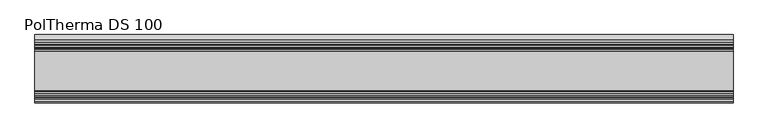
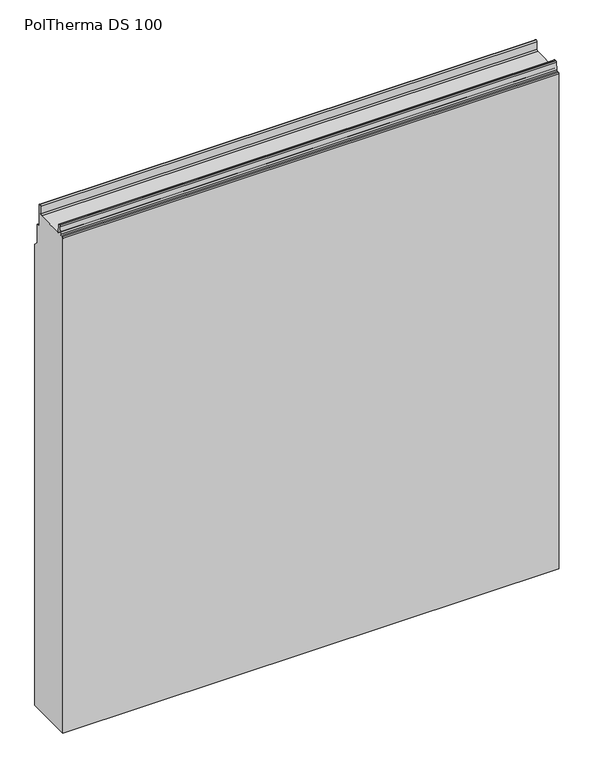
"""IFC4 building model written with IfcOpenShell, lengths in millimetres: plate geometry, Europanels_Poltherma DS_Hz : PolTherma DS 100."""

from ifc_helpers import new_model, si_unit, frame, origin, place, context, project, spatial, polyline, circle_curve, source, transform, mapped, element, save
from ifc_brep_helpers import plane_surface, cylinder_surface, revolved_surface, advanced_brep


def poltherma_ds_100_d88b4380(model_context):
    return source(origin(), model_context, "Body", "AdvancedBrep", [
        advanced_brep(
        [(512.5, 50.0, 0.0), (512.5, 50.0, 1006.0403652), (512.5, 41.9993224, 1014.5306815), (512.5, 41.9993224, 1053.783709), (512.5, 39.5003388, 1056.2826927), (512.5, 36.4964005, 1056.2826927), (512.5, 33.9927587, 1058.7863345), (512.5, 33.9927587, 1102.0320728), (512.5, 31.7320949, 1104.2927366), (512.5, 29.3625931, 1102.12865), (512.5, 28.6828547, 1085.5928147), (512.5, 26.3196392, 1083.2879082), (512.5, -31.7227962, 1081.7845566), (512.5, -33.7207985, 1083.6951741), (512.5, -34.4459609, 1099.8739391), (512.5, -36.4439626, 1101.784556), (512.5, -39.1932037, 1101.784556), (512.5, -41.1890147, 1099.9139331), (512.5, -42.2429781, 1083.6551788), (512.5, -44.2387891, 1081.784556), (512.5, -48.0, 1081.784556), (512.5, -50.0, 1079.784556), (512.5, -50.0, 0.0), (-512.5, 50.0, 0.0), (-512.5, -50.0, 0.0), (-512.5, -50.0, 1079.784556), (-512.5, -48.0, 1081.784556), (-512.5, -44.2387891, 1081.784556), (-512.5, -42.2429781, 1083.6551788), (-512.5, -41.1890147, 1099.9139331), (-512.5, -39.1932037, 1101.784556), (-512.5, -36.4439626, 1101.784556), (-512.5, -34.4459609, 1099.8739391), (-512.5, -33.7221833, 1083.6951728), (-512.5, -31.7227962, 1081.7845566), (-512.5, 26.3196392, 1083.2879082), (-512.5, 28.6828547, 1085.5928147), (-512.5, 29.3363956, 1102.1234406), (-512.5, 31.7320949, 1104.2927366), (-512.5, 33.9927587, 1102.0320728), (-512.5, 33.9927587, 1058.7863345), (-512.5, 36.4964005, 1056.2826927), (-512.5, 39.5003388, 1056.2826927), (-512.5, 41.9993224, 1053.783709), (-512.5, 41.9993224, 1014.5306815), (-512.5, 50.0, 1006.0403652)],
        [
            (0, 1),
            (1, 2),
            (2, 3),
            (3, 4, circle_curve(frame((512.5, 39.5003388, 1053.783709), z_axis=(1.0, 0.0, 0.0), x_axis=(0.0, 1.0, 0.0)), 2.4989837)),
            (4, 5),
            (5, 6, circle_curve(frame((512.5, 36.4964005, 1058.7863345), z_axis=(-1.0, 0.0, 0.0), x_axis=(0.0, 1.0, 0.0)), 2.5036418)),
            (6, 7),
            (7, 8, circle_curve(frame((512.5, 31.7320949, 1102.0320728), z_axis=(1.0, 0.0, 0.0), x_axis=(0.0, 1.0, 0.0)), 2.2606638)),
            (8, 9, circle_curve(frame((512.5, 31.6169847, 1102.0395223), z_axis=(1.0, 0.0, 0.0), x_axis=(0.0, 1.0, 0.0)), 2.2561527)),
            (9, 10),
            (10, 11, circle_curve(frame((512.5, 26.1902185, 1085.784556), z_axis=(-1.0, 0.0, 0.0), x_axis=(0.0, 1.0, 0.0)), 2.5)),
            (11, 12),
            (12, 13, circle_curve(frame((512.5, -31.7227962, 1083.7845572), z_axis=(-1.0, 0.0, 0.0), x_axis=(0.0, 1.0, 0.0)), 2.0000006)),
            (13, 14),
            (14, 15, circle_curve(frame((512.5, -36.4439626, 1099.784556), z_axis=(1.0, 0.0, 0.0), x_axis=(0.0, 1.0, 0.0)), 2.0)),
            (15, 16),
            (16, 17, circle_curve(frame((512.5, -39.1932037, 1099.784556), z_axis=(1.0, 0.0, 0.0), x_axis=(0.0, 1.0, 0.0)), 2.0)),
            (17, 18),
            (18, 19, circle_curve(frame((512.5, -44.2387891, 1083.784556), z_axis=(-1.0, 0.0, 0.0), x_axis=(0.0, 1.0, 0.0)), 2.0)),
            (19, 20),
            (20, 21, circle_curve(frame((512.5, -48.0, 1079.784556), z_axis=(1.0, 0.0, 0.0), x_axis=(0.0, 1.0, 0.0)), 2.0)),
            (21, 22),
            (22, 0),
            (23, 24),
            (24, 25),
            (25, 26, circle_curve(frame((-512.5, -48.0, 1079.784556), z_axis=(-1.0, 0.0, 0.0), x_axis=(0.0, 1.0, 0.0)), 2.0)),
            (26, 27),
            (27, 28, circle_curve(frame((-512.5, -44.2387891, 1083.784556), z_axis=(1.0, 0.0, 0.0), x_axis=(0.0, 1.0, 0.0)), 2.0)),
            (28, 29),
            (29, 30, circle_curve(frame((-512.5, -39.1932037, 1099.784556), z_axis=(-1.0, 0.0, 0.0), x_axis=(0.0, 1.0, 0.0)), 2.0)),
            (30, 31),
            (31, 32, circle_curve(frame((-512.5, -36.4439626, 1099.784556), z_axis=(-1.0, 0.0, 0.0), x_axis=(0.0, 1.0, 0.0)), 2.0)),
            (32, 33),
            (33, 34, circle_curve(frame((-512.5, -31.7227962, 1083.7845572), z_axis=(1.0, 0.0, 0.0), x_axis=(0.0, 1.0, 0.0)), 2.0000006)),
            (34, 35),
            (35, 36, circle_curve(frame((-512.5, 26.1902185, 1085.784556), z_axis=(1.0, 0.0, 0.0), x_axis=(0.0, 1.0, 0.0)), 2.5)),
            (36, 37),
            (37, 38, circle_curve(frame((-512.5, 31.6169847, 1102.0395223), z_axis=(-1.0, 0.0, 0.0), x_axis=(0.0, 1.0, 0.0)), 2.2561527)),
            (38, 39, circle_curve(frame((-512.5, 31.7320949, 1102.0320728), z_axis=(-1.0, 0.0, 0.0), x_axis=(0.0, 1.0, 0.0)), 2.2606638)),
            (39, 40),
            (40, 41, circle_curve(frame((-512.5, 36.4964005, 1058.7863345), z_axis=(1.0, 0.0, 0.0), x_axis=(0.0, 1.0, 0.0)), 2.5036418)),
            (41, 42),
            (42, 43, circle_curve(frame((-512.5, 39.5003388, 1053.783709), z_axis=(-1.0, 0.0, 0.0), x_axis=(0.0, 1.0, 0.0)), 2.4989837)),
            (43, 44),
            (44, 45),
            (45, 23),
            (0, 23),
            (45, 1),
            (44, 2),
            (43, 3),
            (42, 4),
            (41, 5),
            (40, 6),
            (39, 7),
            (38, 8),
            (37, 9),
            (36, 10),
            (35, 11),
            (34, 12),
            (33, 13),
            (32, 14),
            (31, 15),
            (30, 16),
            (29, 17),
            (28, 18),
            (27, 19),
            (26, 20),
            (25, 21),
            (24, 22),
        ],
        [
            plane_surface(frame((512.5, 50.0, 1006.0403652), z_axis=(1.0, 0.0, 0.0), x_axis=(0.0, 0.0, 1.0))),
            plane_surface(frame((-512.5, 50.0, 1006.0403652), z_axis=(-1.0, 0.0, 0.0), x_axis=(0.0, 0.0, -1.0))),
            plane_surface(frame((512.5, 50.0, 0.0), z_axis=(0.0, 1.0, 0.0), x_axis=(-1.0, 0.0, 0.0))),
            plane_surface(frame((512.5, 50.0, 1006.0403652), z_axis=(0.0, 0.7277809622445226, 0.6858096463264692), x_axis=(-1.0, 0.0, 0.0))),
            plane_surface(frame((512.5, 41.9993224, 1014.5306815), z_axis=(0.0, 1.0, 0.0), x_axis=(-1.0, 0.0, 0.0))),
            cylinder_surface(frame((-512.5, 39.5003388, 1053.783709), z_axis=(1.0, 0.0, 0.0), x_axis=(0.0, 1.0, 0.0)), 2.4989837),
            plane_surface(frame((512.5, 39.5003388, 1056.2826927), z_axis=(0.0, 0.0, 1.0), x_axis=(-1.0, 0.0, 0.0))),
            revolved_surface(polyline([(-512.5, 39.0000423, 1058.7863345), (512.5, 39.0000423, 1058.7863345)]), (-512.5, 36.4964005, 1058.7863345), (-1.0, 0.0, 0.0)),
            plane_surface(frame((512.5, 33.9927587, 1058.7863345), z_axis=(0.0, 1.0, 0.0), x_axis=(-1.0, 0.0, 0.0))),
            cylinder_surface(frame((-512.5, 31.7320949, 1102.0320728), z_axis=(1.0, 0.0, 0.0), x_axis=(0.0, 1.0, 0.0)), 2.2606638),
            cylinder_surface(frame((-512.5, 31.6169847, 1102.0395223), z_axis=(1.0, 0.0, 0.0), x_axis=(0.0, 1.0, 0.0)), 2.2561527),
            plane_surface(frame((512.5, 29.3363956, 1102.1234406), z_axis=(0.0, -0.9992194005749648, 0.03950429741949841), x_axis=(-1.0, 0.0, 0.0))),
            revolved_surface(polyline([(-512.5, 28.6902185, 1085.784556), (512.5, 28.6902185, 1085.784556)]), (-512.5, 26.1902185, 1085.784556), (-1.0, 0.0, 0.0)),
            plane_surface(frame((512.5, 26.3196392, 1083.2879082), z_axis=(0.0, -0.025892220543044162, 0.999664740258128), x_axis=(-1.0, 0.0, 0.0))),
            revolved_surface(polyline([(-512.5, -29.7227956, 1083.7845572), (512.5, -29.7227956, 1083.7845572)]), (-512.5, -31.7227962, 1083.7845572), (-1.0, 0.0, 0.0)),
            plane_surface(frame((512.5, -33.7221833, 1083.6951728), z_axis=(0.0, 0.9990008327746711, 0.044691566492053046), x_axis=(-1.0, 0.0, 0.0))),
            cylinder_surface(frame((-512.5, -36.4439626, 1099.784556), z_axis=(1.0, 0.0, 0.0), x_axis=(0.0, 1.0, 0.0)), 2.0),
            plane_surface(frame((512.5, -36.4439626, 1101.784556), z_axis=(0.0, 0.0, 1.0), x_axis=(-1.0, 0.0, 0.0))),
            cylinder_surface(frame((-512.5, -39.1932037, 1099.784556), z_axis=(1.0, 0.0, 0.0), x_axis=(0.0, 1.0, 0.0)), 2.0),
            plane_surface(frame((512.5, -41.1890147, 1099.9139331), z_axis=(0.0, -0.9979054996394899, 0.06468859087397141), x_axis=(-1.0, 0.0, 0.0))),
            revolved_surface(polyline([(-512.5, -42.2387891, 1083.784556), (512.5, -42.2387891, 1083.784556)]), (-512.5, -44.2387891, 1083.784556), (-1.0, 0.0, 0.0)),
            plane_surface(frame((512.5, -44.2387891, 1081.784556), z_axis=(0.0, 0.0, 1.0), x_axis=(-1.0, 0.0, 0.0))),
            cylinder_surface(frame((-512.5, -48.0, 1079.784556), z_axis=(1.0, 0.0, 0.0), x_axis=(0.0, 1.0, 0.0)), 2.0),
            plane_surface(frame((512.5, -50.0, 1079.784556), z_axis=(0.0, -1.0, 0.0), x_axis=(-1.0, 0.0, 0.0))),
            plane_surface(frame((512.5, -50.0, 0.0), z_axis=(0.0, 0.0, -1.0), x_axis=(-1.0, 0.0, 0.0))),
        ],
        [
            (0, [[1, 2, 3, 4, 5, 6, 7, 8, 9, 10, 11, 12, 13, 14, 15, 16, 17, 18, 19, 20, 21, 22, 23]]),
            (1, [[24, 25, 26, 27, 28, 29, 30, 31, 32, 33, 34, 35, 36, 37, 38, 39, 40, 41, 42, 43, 44, 45, 46]]),
            (2, [[-1, 47, -46, 48]]),
            (3, [[-2, -48, -45, 49]]),
            (4, [[-3, -49, -44, 50]]),
            (5, [[-4, -50, -43, 51]]),
            (6, [[-5, -51, -42, 52]]),
            (7, [[-6, -52, -41, 53]]),
            (8, [[-7, -53, -40, 54]]),
            (9, [[-8, -54, -39, 55]]),
            (10, [[-9, -55, -38, 56]]),
            (11, [[-10, -56, -37, 57]]),
            (12, [[-11, -57, -36, 58]]),
            (13, [[-12, -58, -35, 59]]),
            (14, [[-13, -59, -34, 60]]),
            (15, [[-14, -60, -33, 61]]),
            (16, [[-15, -61, -32, 62]]),
            (17, [[-16, -62, -31, 63]]),
            (18, [[-17, -63, -30, 64]]),
            (19, [[-18, -64, -29, 65]]),
            (20, [[-19, -65, -28, 66]]),
            (21, [[-20, -66, -27, 67]]),
            (22, [[-21, -67, -26, 68]]),
            (23, [[-22, -68, -25, 69]]),
            (24, [[-23, -69, -24, -47]]),
        ],
    ),
    ])


if __name__ == "__main__":
    model = new_model("IFC4")
    model_context = context("Model", 3, world=origin())
    ifc_project = project(units=[si_unit("LENGTHUNIT", "METRE", prefix="MILLI")], contexts=[model_context])
    site = spatial("IfcSite", under=ifc_project)
    building = spatial("IfcBuilding", under=site)
    placement = place(None, origin())
    poltherma_ds_100_shape = poltherma_ds_100_d88b4380(model_context)
    element("IfcPlate", 1, ObjectType="Europanels_Poltherma DS_Hz : PolTherma DS 100", at=placement, inside=building, context=model_context, shape_type="MappedRepresentation", body=[
        mapped(poltherma_ds_100_shape, transform((0.0, 0.0, 0.0), x_axis=(1.0, 0.0, 0.0), y_axis=(0.0, 1.0, 0.0), z_axis=(0.0, 0.0, 1.0))),
    ])
    save(model, "model.ifc")
